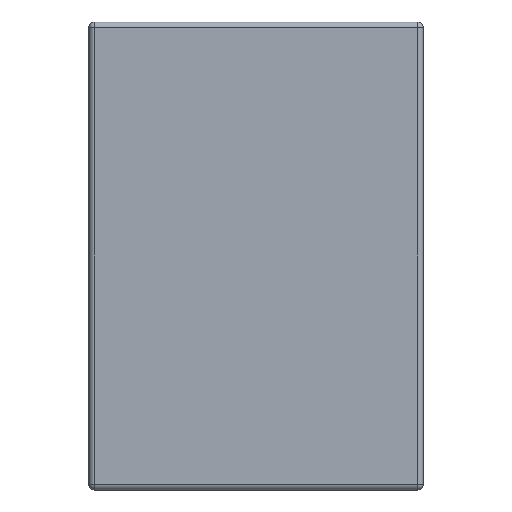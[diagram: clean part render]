
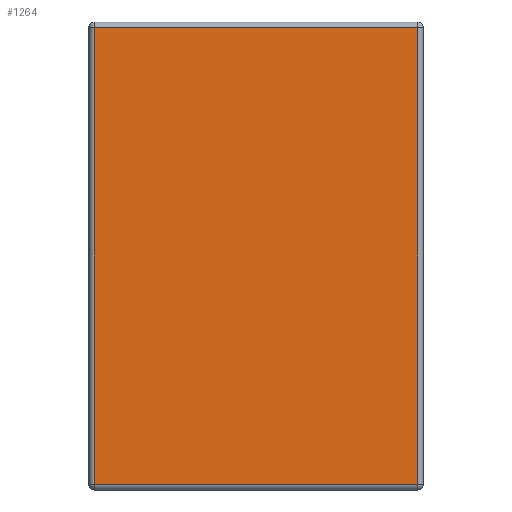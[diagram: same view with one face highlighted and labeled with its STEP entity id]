
A CAD part, left-side view. The second image highlights one B-rep face of the part: STEP entity #1264.
In plain terms, the highlighted planar face has unit normal (-1, 0, 0).
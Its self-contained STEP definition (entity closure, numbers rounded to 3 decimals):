
#42 = CARTESIAN_POINT ( 'NONE',  ( -17.5, -14.5, 41.5 ) ) ;
#63 = EDGE_CURVE ( 'NONE', #458, #452, #1295, .T. ) ;
#107 = CARTESIAN_POINT ( 'NONE',  ( -17.5, -14.5, 0.5 ) ) ;
#113 = CARTESIAN_POINT ( 'NONE',  ( -17.5, -14.5, 42. ) ) ;
#170 = VERTEX_POINT ( 'NONE', #42 ) ;
#244 = CARTESIAN_POINT ( 'NONE',  ( -17.5, -15., 42. ) ) ;
#247 = CARTESIAN_POINT ( 'NONE',  ( -17.5, 14.5, 0.5 ) ) ;
#283 = CARTESIAN_POINT ( 'NONE',  ( -17.5, 15., 41.5 ) ) ;
#312 = CARTESIAN_POINT ( 'NONE',  ( -17.5, 14.5, 42. ) ) ;
#395 = LINE ( 'NONE', #283, #1864 ) ;
#404 = DIRECTION ( 'NONE',  ( 0., -1., 0. ) ) ;
#443 = LINE ( 'NONE', #113, #601 ) ;
#452 = VERTEX_POINT ( 'NONE', #107 ) ;
#458 = VERTEX_POINT ( 'NONE', #247 ) ;
#566 = EDGE_CURVE ( 'NONE', #170, #1889, #395, .T. ) ;
#601 = VECTOR ( 'NONE', #1448, 1000. ) ;
#670 = PLANE ( 'NONE',  #1364 ) ;
#757 = VECTOR ( 'NONE', #404, 1000. ) ;
#847 = CARTESIAN_POINT ( 'NONE',  ( -17.5, 14.5, 41.5 ) ) ;
#896 = ORIENTED_EDGE ( 'NONE', *, *, #63, .T. ) ;
#1024 = DIRECTION ( 'NONE',  ( 0., 1., 0. ) ) ;
#1084 = EDGE_CURVE ( 'NONE', #1889, #458, #1588, .T. ) ;
#1119 = ORIENTED_EDGE ( 'NONE', *, *, #1838, .T. ) ;
#1226 = FACE_OUTER_BOUND ( 'NONE', #1314, .T. ) ;
#1230 = DIRECTION ( 'NONE',  ( 0., 0., -1. ) ) ;
#1243 = ORIENTED_EDGE ( 'NONE', *, *, #566, .T. ) ;
#1264 = ADVANCED_FACE ( 'NONE', ( #1226 ), #670, .F. ) ;
#1295 = LINE ( 'NONE', #1300, #757 ) ;
#1300 = CARTESIAN_POINT ( 'NONE',  ( -17.5, -15., 0.5 ) ) ;
#1314 = EDGE_LOOP ( 'NONE', ( #1243, #1543, #896, #1119 ) ) ;
#1353 = VECTOR ( 'NONE', #1230, 1000. ) ;
#1364 = AXIS2_PLACEMENT_3D ( 'NONE', #244, #1729, #1724 ) ;
#1448 = DIRECTION ( 'NONE',  ( 0., 0., 1. ) ) ;
#1543 = ORIENTED_EDGE ( 'NONE', *, *, #1084, .T. ) ;
#1588 = LINE ( 'NONE', #312, #1353 ) ;
#1724 = DIRECTION ( 'NONE',  ( 0., 0., -1. ) ) ;
#1729 = DIRECTION ( 'NONE',  ( 1., 0., 0. ) ) ;
#1838 = EDGE_CURVE ( 'NONE', #452, #170, #443, .T. ) ;
#1864 = VECTOR ( 'NONE', #1024, 1000. ) ;
#1889 = VERTEX_POINT ( 'NONE', #847 ) ;
